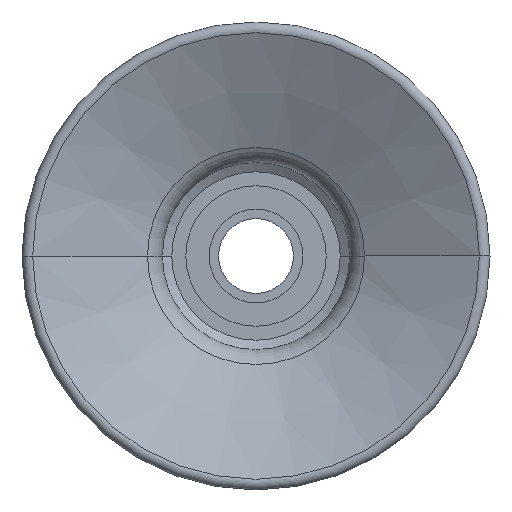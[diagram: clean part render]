
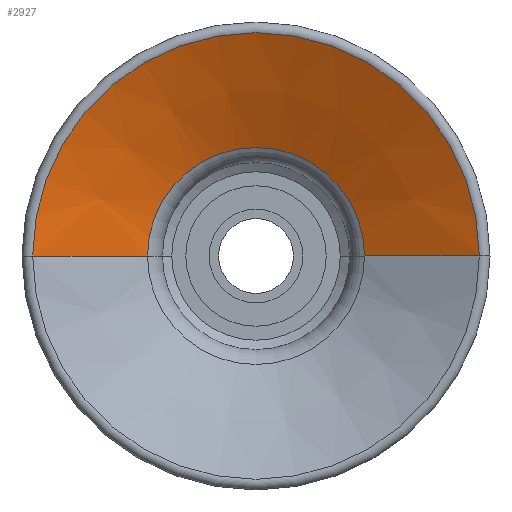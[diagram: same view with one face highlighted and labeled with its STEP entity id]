
A CAD part, front view. The second image highlights one B-rep face of the part: STEP entity #2927.
In plain terms, the highlighted conical face has half-angle 64.353 degrees and reference radius 8.861 mm.
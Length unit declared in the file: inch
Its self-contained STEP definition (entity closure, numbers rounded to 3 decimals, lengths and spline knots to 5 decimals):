
#138 = AXIS2_PLACEMENT_3D ( 'NONE', #3732, #3280, #4672 ) ;
#193 = CARTESIAN_POINT ( 'NONE',  ( -0.22811, 0., -0.62297 ) ) ;
#502 = CARTESIAN_POINT ( 'NONE',  ( -0.46956, 0., -0.7389 ) ) ;
#541 = CARTESIAN_POINT ( 'NONE',  ( 0., 0., -0.7389 ) ) ;
#1030 = DIRECTION ( 'NONE',  ( -0.901, 0., -0.433 ) ) ;
#1032 = ORIENTED_EDGE ( 'NONE', *, *, #1119, .F. ) ;
#1119 = EDGE_CURVE ( 'NONE', #3305, #5614, #2683, .T. ) ;
#1257 = DIRECTION ( 'NONE',  ( 0., 0., -1. ) ) ;
#1340 = DIRECTION ( 'NONE',  ( 1., 0., 0. ) ) ;
#1422 = DIRECTION ( 'NONE',  ( 0., 0., 1. ) ) ;
#1511 = CARTESIAN_POINT ( 'NONE',  ( 0.46956, 0., -0.7389 ) ) ;
#1765 = VECTOR ( 'NONE', #1030, 39.37008 ) ;
#2004 = EDGE_CURVE ( 'NONE', #3361, #3847, #2086, .T. ) ;
#2086 = CIRCLE ( 'NONE', #138, 0.22811 ) ;
#2683 = CIRCLE ( 'NONE', #3266, 0.46956 ) ;
#2927 = ADVANCED_FACE ( 'NONE', ( #3611 ), #3548, .F. ) ;
#3244 = EDGE_LOOP ( 'NONE', ( #1032, #4667, #6022, #3878 ) ) ;
#3266 = AXIS2_PLACEMENT_3D ( 'NONE', #541, #1422, #4264 ) ;
#3280 = DIRECTION ( 'NONE',  ( 0., 0., -1. ) ) ;
#3305 = VERTEX_POINT ( 'NONE', #502 ) ;
#3358 = CARTESIAN_POINT ( 'NONE',  ( -0.22811, 0., -0.62297 ) ) ;
#3361 = VERTEX_POINT ( 'NONE', #5651 ) ;
#3548 = CONICAL_SURFACE ( 'NONE', #5374, 0.34884, 1.123 ) ;
#3611 = FACE_OUTER_BOUND ( 'NONE', #3244, .T. ) ;
#3638 = VECTOR ( 'NONE', #5912, 39.37008 ) ;
#3706 = CARTESIAN_POINT ( 'NONE',  ( 0., 0., -0.68094 ) ) ;
#3732 = CARTESIAN_POINT ( 'NONE',  ( 0., 0., -0.62297 ) ) ;
#3847 = VERTEX_POINT ( 'NONE', #193 ) ;
#3878 = ORIENTED_EDGE ( 'NONE', *, *, #5141, .T. ) ;
#4066 = EDGE_CURVE ( 'NONE', #3847, #3305, #4727, .T. ) ;
#4090 = CARTESIAN_POINT ( 'NONE',  ( 0.22811, 0., -0.62297 ) ) ;
#4264 = DIRECTION ( 'NONE',  ( -1., 0., 0. ) ) ;
#4490 = LINE ( 'NONE', #4090, #3638 ) ;
#4667 = ORIENTED_EDGE ( 'NONE', *, *, #4066, .F. ) ;
#4672 = DIRECTION ( 'NONE',  ( 1., 0., 0. ) ) ;
#4727 = LINE ( 'NONE', #3358, #1765 ) ;
#5141 = EDGE_CURVE ( 'NONE', #3361, #5614, #4490, .T. ) ;
#5374 = AXIS2_PLACEMENT_3D ( 'NONE', #3706, #1257, #1340 ) ;
#5614 = VERTEX_POINT ( 'NONE', #1511 ) ;
#5651 = CARTESIAN_POINT ( 'NONE',  ( 0.22811, 0., -0.62297 ) ) ;
#5912 = DIRECTION ( 'NONE',  ( 0.901, 0., -0.433 ) ) ;
#6022 = ORIENTED_EDGE ( 'NONE', *, *, #2004, .F. ) ;
